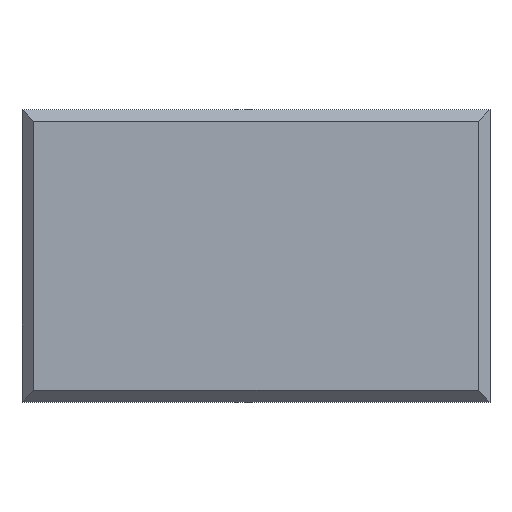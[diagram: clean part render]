
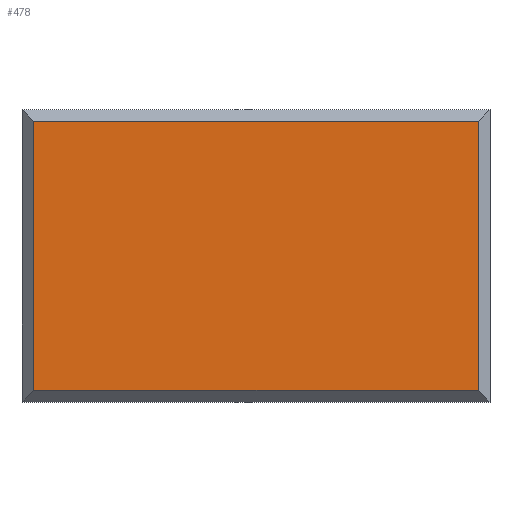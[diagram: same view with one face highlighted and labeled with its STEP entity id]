
A CAD part, top view. The second image highlights one B-rep face of the part: STEP entity #478.
In plain terms, the highlighted planar face has unit normal (0, 0, 1).
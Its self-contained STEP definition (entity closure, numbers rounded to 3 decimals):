
#126 = PLANE('',#127);
#127 = AXIS2_PLACEMENT_3D('',#128,#129,#130);
#128 = CARTESIAN_POINT('',(-39.,-25.,11.5));
#129 = DIRECTION('',(0.707,0.,-0.707));
#130 = DIRECTION('',(0.,1.,0.));
#207 = PLANE('',#208);
#208 = AXIS2_PLACEMENT_3D('',#209,#210,#211);
#209 = CARTESIAN_POINT('',(-40.,-24.,11.5));
#210 = DIRECTION('',(0.,0.707,-0.707));
#211 = DIRECTION('',(-1.,-0.,-0.));
#223 = VERTEX_POINT('',#224);
#224 = CARTESIAN_POINT('',(-38.,-23.,12.5));
#247 = VERTEX_POINT('',#248);
#248 = CARTESIAN_POINT('',(-38.,23.,12.5));
#262 = PLANE('',#263);
#263 = AXIS2_PLACEMENT_3D('',#264,#265,#266);
#264 = CARTESIAN_POINT('',(-40.,24.,11.5));
#265 = DIRECTION('',(0.,0.707,0.707));
#266 = DIRECTION('',(-1.,-0.,0.));
#274 = EDGE_CURVE('',#223,#247,#275,.T.);
#275 = SURFACE_CURVE('',#276,(#280,#287),.PCURVE_S1.);
#276 = LINE('',#277,#278);
#277 = CARTESIAN_POINT('',(-38.,-25.,12.5));
#278 = VECTOR('',#279,1.);
#279 = DIRECTION('',(0.,1.,0.));
#280 = PCURVE('',#126,#281);
#281 = DEFINITIONAL_REPRESENTATION('',(#282),#286);
#282 = LINE('',#283,#284);
#283 = CARTESIAN_POINT('',(0.,1.414));
#284 = VECTOR('',#285,1.);
#285 = DIRECTION('',(1.,0.));
#286 = ( GEOMETRIC_REPRESENTATION_CONTEXT(2) 
PARAMETRIC_REPRESENTATION_CONTEXT() REPRESENTATION_CONTEXT('2D SPACE',''
  ) );
#287 = PCURVE('',#288,#293);
#288 = PLANE('',#289);
#289 = AXIS2_PLACEMENT_3D('',#290,#291,#292);
#290 = CARTESIAN_POINT('',(-40.,-25.,12.5));
#291 = DIRECTION('',(0.,0.,1.));
#292 = DIRECTION('',(1.,0.,0.));
#293 = DEFINITIONAL_REPRESENTATION('',(#294),#298);
#294 = LINE('',#295,#296);
#295 = CARTESIAN_POINT('',(2.,0.));
#296 = VECTOR('',#297,1.);
#297 = DIRECTION('',(0.,1.));
#298 = ( GEOMETRIC_REPRESENTATION_CONTEXT(2) 
PARAMETRIC_REPRESENTATION_CONTEXT() REPRESENTATION_CONTEXT('2D SPACE',''
  ) );
#418 = PLANE('',#419);
#419 = AXIS2_PLACEMENT_3D('',#420,#421,#422);
#420 = CARTESIAN_POINT('',(39.,-25.,11.5));
#421 = DIRECTION('',(0.707,0.,0.707));
#422 = DIRECTION('',(-0.,1.,0.));
#436 = VERTEX_POINT('',#437);
#437 = CARTESIAN_POINT('',(38.,-23.,12.5));
#458 = EDGE_CURVE('',#223,#436,#459,.T.);
#459 = SURFACE_CURVE('',#460,(#464,#471),.PCURVE_S1.);
#460 = LINE('',#461,#462);
#461 = CARTESIAN_POINT('',(-40.,-23.,12.5));
#462 = VECTOR('',#463,1.);
#463 = DIRECTION('',(1.,0.,0.));
#464 = PCURVE('',#207,#465);
#465 = DEFINITIONAL_REPRESENTATION('',(#466),#470);
#466 = LINE('',#467,#468);
#467 = CARTESIAN_POINT('',(-0.,1.414));
#468 = VECTOR('',#469,1.);
#469 = DIRECTION('',(-1.,0.));
#470 = ( GEOMETRIC_REPRESENTATION_CONTEXT(2) 
PARAMETRIC_REPRESENTATION_CONTEXT() REPRESENTATION_CONTEXT('2D SPACE',''
  ) );
#471 = PCURVE('',#288,#472);
#472 = DEFINITIONAL_REPRESENTATION('',(#473),#477);
#473 = LINE('',#474,#475);
#474 = CARTESIAN_POINT('',(0.,2.));
#475 = VECTOR('',#476,1.);
#476 = DIRECTION('',(1.,0.));
#477 = ( GEOMETRIC_REPRESENTATION_CONTEXT(2) 
PARAMETRIC_REPRESENTATION_CONTEXT() REPRESENTATION_CONTEXT('2D SPACE',''
  ) );
#478 = ADVANCED_FACE('',(#479),#288,.T.);
#479 = FACE_BOUND('',#480,.T.);
#480 = EDGE_LOOP('',(#481,#482,#483,#506));
#481 = ORIENTED_EDGE('',*,*,#274,.F.);
#482 = ORIENTED_EDGE('',*,*,#458,.T.);
#483 = ORIENTED_EDGE('',*,*,#484,.T.);
#484 = EDGE_CURVE('',#436,#485,#487,.T.);
#485 = VERTEX_POINT('',#486);
#486 = CARTESIAN_POINT('',(38.,23.,12.5));
#487 = SURFACE_CURVE('',#488,(#492,#499),.PCURVE_S1.);
#488 = LINE('',#489,#490);
#489 = CARTESIAN_POINT('',(38.,-25.,12.5));
#490 = VECTOR('',#491,1.);
#491 = DIRECTION('',(0.,1.,0.));
#492 = PCURVE('',#288,#493);
#493 = DEFINITIONAL_REPRESENTATION('',(#494),#498);
#494 = LINE('',#495,#496);
#495 = CARTESIAN_POINT('',(78.,0.));
#496 = VECTOR('',#497,1.);
#497 = DIRECTION('',(0.,1.));
#498 = ( GEOMETRIC_REPRESENTATION_CONTEXT(2) 
PARAMETRIC_REPRESENTATION_CONTEXT() REPRESENTATION_CONTEXT('2D SPACE',''
  ) );
#499 = PCURVE('',#418,#500);
#500 = DEFINITIONAL_REPRESENTATION('',(#501),#505);
#501 = LINE('',#502,#503);
#502 = CARTESIAN_POINT('',(0.,1.414));
#503 = VECTOR('',#504,1.);
#504 = DIRECTION('',(1.,0.));
#505 = ( GEOMETRIC_REPRESENTATION_CONTEXT(2) 
PARAMETRIC_REPRESENTATION_CONTEXT() REPRESENTATION_CONTEXT('2D SPACE',''
  ) );
#506 = ORIENTED_EDGE('',*,*,#507,.F.);
#507 = EDGE_CURVE('',#247,#485,#508,.T.);
#508 = SURFACE_CURVE('',#509,(#513,#520),.PCURVE_S1.);
#509 = LINE('',#510,#511);
#510 = CARTESIAN_POINT('',(-40.,23.,12.5));
#511 = VECTOR('',#512,1.);
#512 = DIRECTION('',(1.,0.,0.));
#513 = PCURVE('',#288,#514);
#514 = DEFINITIONAL_REPRESENTATION('',(#515),#519);
#515 = LINE('',#516,#517);
#516 = CARTESIAN_POINT('',(0.,48.));
#517 = VECTOR('',#518,1.);
#518 = DIRECTION('',(1.,0.));
#519 = ( GEOMETRIC_REPRESENTATION_CONTEXT(2) 
PARAMETRIC_REPRESENTATION_CONTEXT() REPRESENTATION_CONTEXT('2D SPACE',''
  ) );
#520 = PCURVE('',#262,#521);
#521 = DEFINITIONAL_REPRESENTATION('',(#522),#526);
#522 = LINE('',#523,#524);
#523 = CARTESIAN_POINT('',(-0.,1.414));
#524 = VECTOR('',#525,1.);
#525 = DIRECTION('',(-1.,0.));
#526 = ( GEOMETRIC_REPRESENTATION_CONTEXT(2) 
PARAMETRIC_REPRESENTATION_CONTEXT() REPRESENTATION_CONTEXT('2D SPACE',''
  ) );
